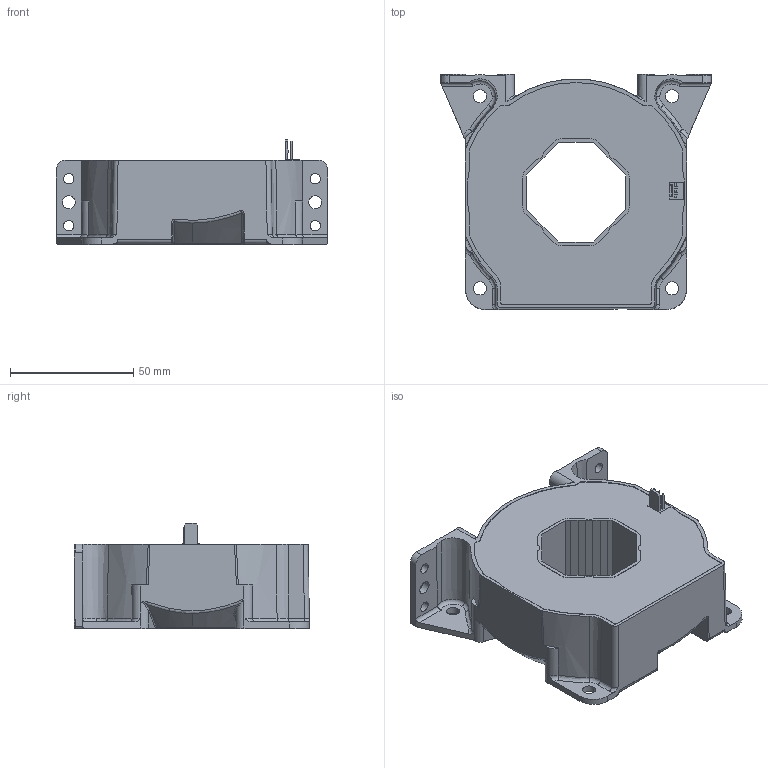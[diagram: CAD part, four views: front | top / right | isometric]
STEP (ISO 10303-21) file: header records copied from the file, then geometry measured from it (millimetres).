
FILE_DESCRIPTION(('CoCreate Modeling STEP Export'),'2;1');
FILE_NAME('LF 1005-S_SP35_Blackbox.stp','2009-05-27T 8:43:07',(''),(''),'CoCreate Modeling STEP processor for AP214 (Solid Model)','CoCreate Modeling 16.00A 16-Aug-2008 (C) Parametric Technology GmbH','');
FILE_SCHEMA(('AUTOMOTIVE_DESIGN { 1 0 10303 214 1 1 1 1 }'));
Length unit declared in the file: millimetre
Products named in the file (3): Molex_3_p; Boitier_blackbox; LF1005-S_SP35_Blackbox
Assembly tree (2 placements, depth 2):
  LF1005-S_SP35_Blackbox
    Boitier_blackbox
    Molex_3_p
Bounding box: 110 x 95.39 x 42.9 mm (x, y, z)
Volume: 202512.3 mm3; surface area: 36841.9 mm2
Topology: 2 solids, 2 shells, 1191 faces, 3190 edges, 2082 vertices
Faces by surface type: plane 835, cylinder 184, bspline 85, cone 45, extrusion 25, torus 17
Entity records: 52659 total; most frequent: CARTESIAN_POINT 24090, ORIENTED_EDGE 6372, DIRECTION 5106, EDGE_CURVE 3186, VECTOR 2406, LINE 2381, VERTEX_POINT 2082, AXIS2_PLACEMENT_3D 1350
